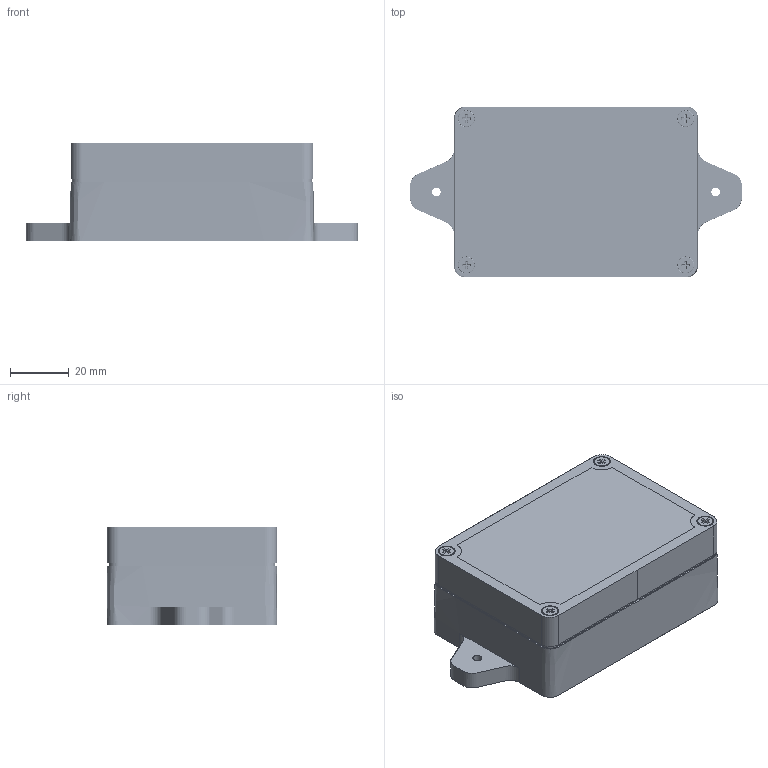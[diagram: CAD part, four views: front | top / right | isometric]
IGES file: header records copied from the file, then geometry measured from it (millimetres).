
Start section: MP1709-M3x3mm_set_screw..SLDPRT - CatalogComponentType MP1709-M3x3mm_set_screw..SLDPRT - PrototypeComponentType MP1709-M3x3mm_set_screw..SLDPRT - PrototypeComponentType MP02827_Nylon_4-40_screw..SLDPRT - CatalogComponentType MP02827_Nylon_4-40_screw..SLDPRT - PrototypeComponentType MP02827_Nylon_4-40_screw..SLDPRT - PrototypeComponentType
Global section: file name: C:\Users\LYF2X5\Documents\Control temperatura\Cajas\Small watertight enclosure.igs; native system: Rhinoceros ( Jul 17 2013 ); preprocessor: Trout Lake IGES 012 Jul 17 2013; date: 181230.170000; units: millimetre
Bounding box: 113.5 x 58.35 x 33.23 mm (x, y, z)
Surface area: 45656.6 mm2 (no closed solid volume)
Topology: 0 solids, 0 shells, 1415 faces, 12104 edges, 11973 vertices
Faces by surface type: bspline 1415
